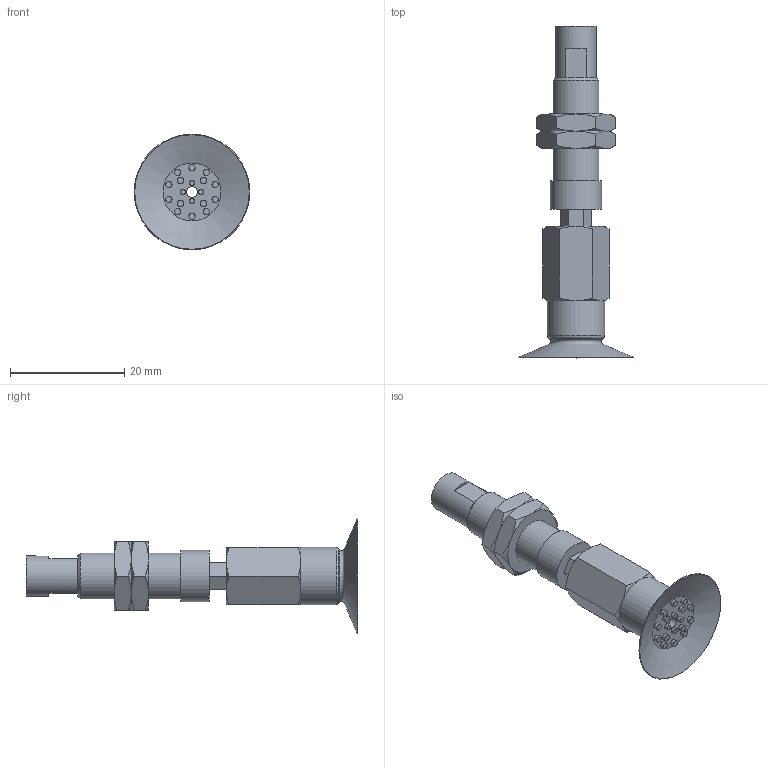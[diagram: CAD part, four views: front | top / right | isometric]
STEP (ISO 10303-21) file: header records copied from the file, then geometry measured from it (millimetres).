
FILE_DESCRIPTION(('STEP AP203'),'1');
FILE_NAME('.stp','2025-08-21T08:28:40',(' '),(' '),'Spatial InterOp 3D',' ',' ');
FILE_SCHEMA(('CONFIG_CONTROL_DESIGN'));
Length unit declared in the file: millimetre
Products named in the file (6): BNABPATH-20A-3-※; ADAPTER; NAPATH-10A-3--M; NAPATH-20A-3--F; Nut-10A-S; BPAG-20A-※
Assembly tree (6 placements, depth 2):
  BNABPATH-20A-3-※
    ADAPTER
    NAPATH-10A-3--M
    NAPATH-20A-3--F
    Nut-10A-S  x2
    BPAG-20A-※
Bounding box: 20.19 x 58 x 20.19 mm (x, y, z)
Volume: 3705.9 mm3; surface area: 4548.4 mm2
Topology: 6 solids, 6 shells, 159 faces, 319 edges, 197 vertices
Faces by surface type: plane 71, cone 46, cylinder 32, torus 10
Full cylindrical faces by diameter (mm): 0.9 x4, 1.1 x14, 2 x3, 4 x2, 4.134 x1, 6 x2, 7 x1, 7.188 x2, 8 x1, 9 x1, 10 x1
Entity records: 3700 total; most frequent: CARTESIAN_POINT 805, DIRECTION 558, ORIENTED_EDGE 426, AXIS2_PLACEMENT_3D 250, EDGE_LOOP 220, EDGE_CURVE 213, FACE_OUTER_BOUND 177, VERTEX_POINT 161
